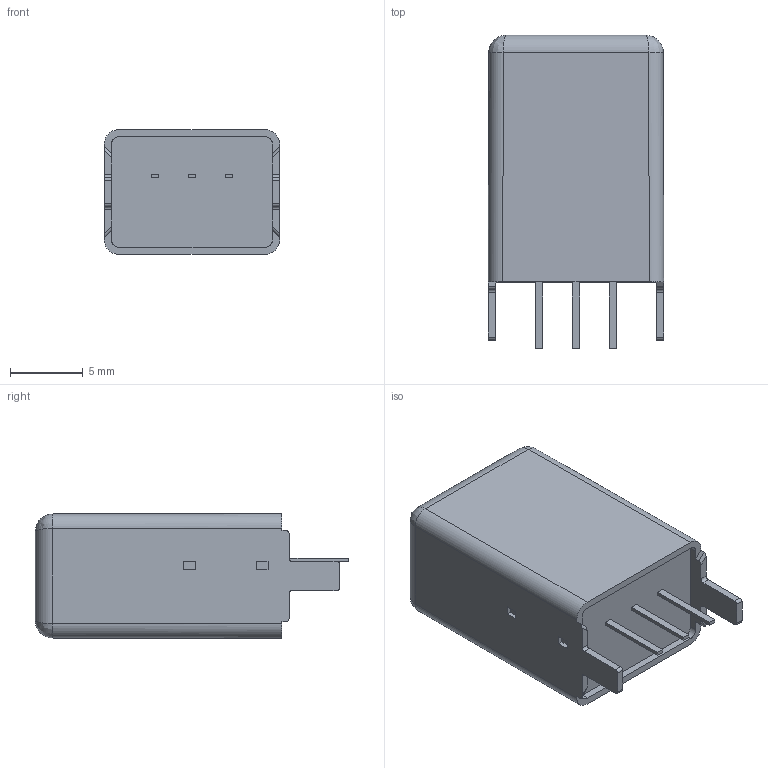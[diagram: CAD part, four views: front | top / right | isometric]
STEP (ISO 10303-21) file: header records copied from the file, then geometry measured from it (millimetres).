
FILE_DESCRIPTION (( 'STEP AP203' ), '1' );
FILE_NAME ('NCS01W8成品圖2024.05.22.STEP', '2024-05-22T00:23:07', ( '' ), ( '' ), 'SwSTEP 2.0', 'SolidWorks 2020', '' );
FILE_SCHEMA (( 'CONFIG_CONTROL_DESIGN' ));
Length unit declared in the file: millimetre
Products named in the file (1): NCS01W8成品圖2024.05.22
Bounding box: 12.1 x 21.6 x 8.6 mm (x, y, z)
Volume: 451.6 mm3; surface area: 1650.2 mm2
Topology: 1 solids, 2 shells, 107 faces, 272 edges, 168 vertices
Faces by surface type: plane 67, cylinder 32, bspline 8
Entity records: 3401 total; most frequent: CARTESIAN_POINT 976, ORIENTED_EDGE 528, DIRECTION 424, EDGE_CURVE 264, LINE 200, VECTOR 200, VERTEX_POINT 168, EDGE_LOOP 114
